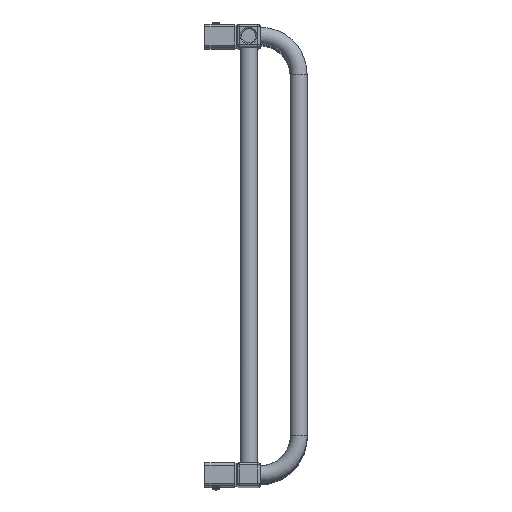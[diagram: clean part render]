
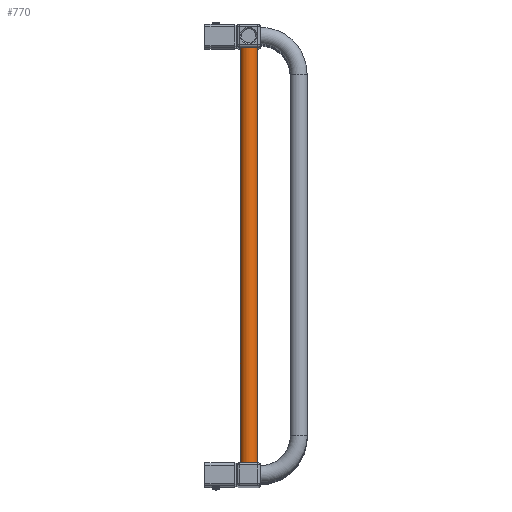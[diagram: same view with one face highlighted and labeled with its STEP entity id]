
A CAD part, top view. The second image highlights one B-rep face of the part: STEP entity #770.
In plain terms, the highlighted cylindrical face has radius 11 mm (diameter 22 mm), a full revolution.
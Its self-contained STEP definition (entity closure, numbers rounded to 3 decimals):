
#743=CARTESIAN_POINT('',(0.0,-270.0,1230.0));
#744=DIRECTION('',(0.0,1.0,0.0));
#745=DIRECTION('',(-1.0,0.0,0.0));
#746=AXIS2_PLACEMENT_3D('',#743,#744,#745);
#747=CYLINDRICAL_SURFACE('',#746,11.);
#748=CARTESIAN_POINT('',(11.,-270.0,1230.0));
#749=VERTEX_POINT('',#748);
#750=CARTESIAN_POINT('',(0.0,-270.0,1230.0));
#751=DIRECTION('',(0.0,-1.0,0.0));
#752=DIRECTION('',(-1.0,0.0,0.0));
#753=AXIS2_PLACEMENT_3D('',#750,#751,#752);
#754=CIRCLE('',#753,11.);
#755=EDGE_CURVE('',#749,#749,#754,.T.);
#756=ORIENTED_EDGE('',*,*,#755,.F.);
#757=EDGE_LOOP('',(#756));
#758=FACE_OUTER_BOUND('',#757,.T.);
#759=CARTESIAN_POINT('',(11.,270.0,1230.0));
#760=VERTEX_POINT('',#759);
#761=CARTESIAN_POINT('',(0.0,270.0,1230.0));
#762=DIRECTION('',(0.0,1.0,0.0));
#763=DIRECTION('',(-1.0,0.0,0.0));
#764=AXIS2_PLACEMENT_3D('',#761,#762,#763);
#765=CIRCLE('',#764,11.);
#766=EDGE_CURVE('',#760,#760,#765,.T.);
#767=ORIENTED_EDGE('',*,*,#766,.F.);
#768=EDGE_LOOP('',(#767));
#769=FACE_BOUND('',#768,.T.);
#770=ADVANCED_FACE('',(#758,#769),#747,.T.);
